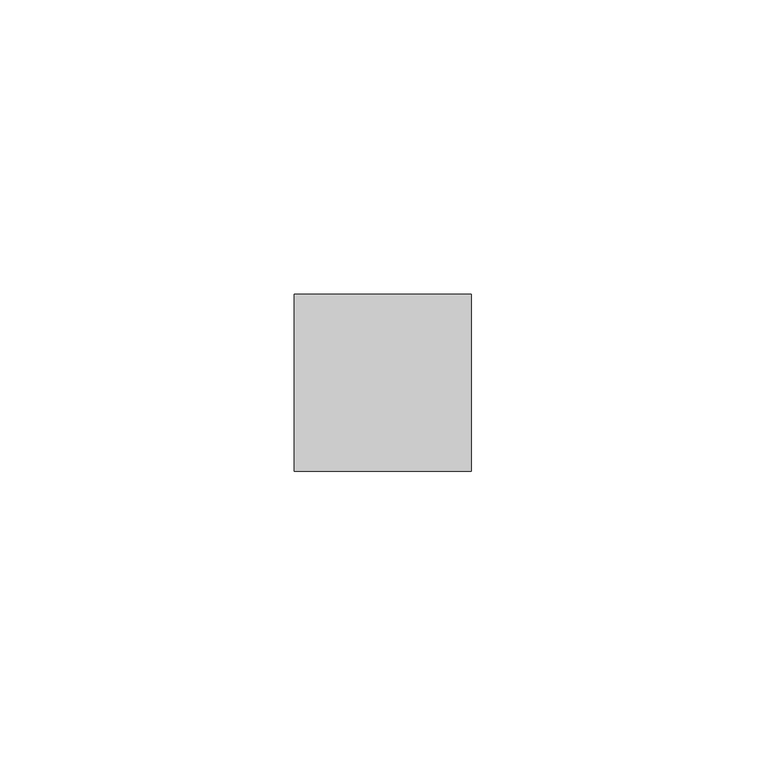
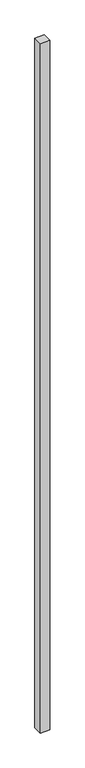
"""IFC4 building model written with IfcOpenShell, lengths in millimetres: member geometry, 矩形竖梃 : 30mm 正方形."""

from ifc_helpers import new_model, si_unit, frame, origin, place, context, project, spatial, polyline, outline, extrude, source, transform, mapped, element, save


def member_364816fe(model_context):
    return source(origin(), model_context, "Body", "SweptSolid", [
        extrude(outline(polyline([(0.0, 15.0), (0.0, -15.0), (-30.0, -15.0), (-30.0, 15.0), (0.0, 15.0)])), frame((0.0, 0.0, -2300.0), z_axis=(0.0, 0.0, 1.0), x_axis=(1.0, 0.0, 0.0)), (0.0, 0.0, 1.0), 2300.0),
    ])


if __name__ == "__main__":
    model = new_model("IFC4")
    model_context = context("Model", 3, world=origin())
    ifc_project = project(units=[si_unit("LENGTHUNIT", "METRE", prefix="MILLI")], contexts=[model_context])
    site = spatial("IfcSite", under=ifc_project)
    building = spatial("IfcBuilding", under=site)
    placement = place(None, origin())
    member_shape = member_364816fe(model_context)
    element("IfcMember", 1, ObjectType="矩形竖梃 : 30mm 正方形", at=placement, inside=building, context=model_context, shape_type="MappedRepresentation", body=[
        mapped(member_shape, transform((0.0, 0.0, 0.0), x_axis=(1.0, 0.0, 0.0), y_axis=(0.0, 1.0, 0.0), z_axis=(0.0, 0.0, 1.0))),
    ])
    save(model, "model.ifc")
